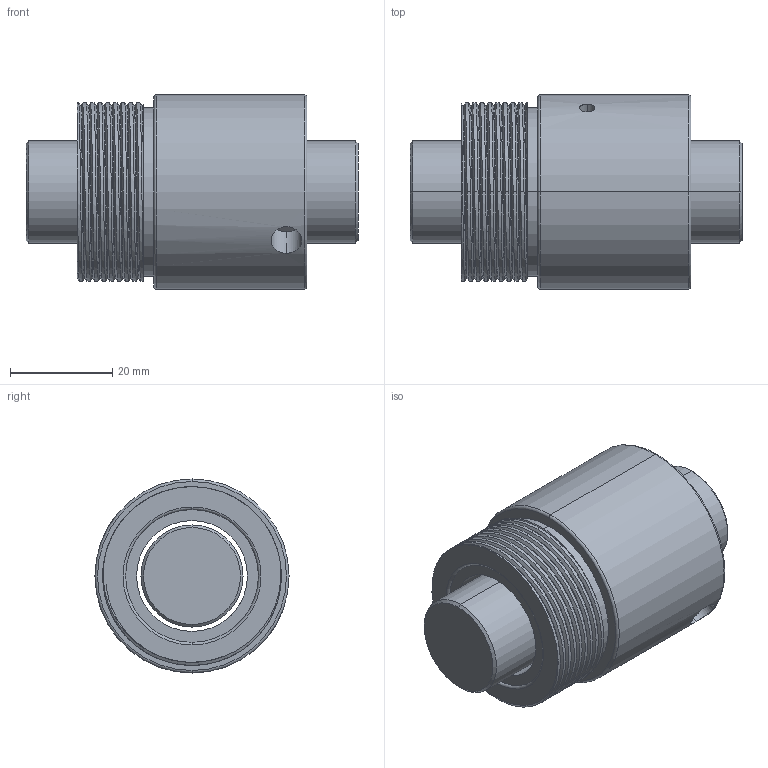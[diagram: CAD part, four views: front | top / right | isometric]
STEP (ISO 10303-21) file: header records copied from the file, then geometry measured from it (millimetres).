
FILE_DESCRIPTION (( 'STEP AP203' ), '1' );
FILE_NAME ('BSHR02005T3-C.STEP', '2020-06-17T06:58:15', ( '' ), ( '' ), 'SwSTEP 2.0', 'SolidWorks 2013', '' );
FILE_SCHEMA (( 'CONFIG_CONTROL_DESIGN' ));
Length unit declared in the file: millimetre
Products named in the file (1): BSHR02005T3-C
Bounding box: 65 x 38 x 38 mm (x, y, z)
Volume: 51258.6 mm3; surface area: 15343.6 mm2
Topology: 2 solids, 2 shells, 56 faces, 134 edges, 85 vertices
Faces by surface type: cylinder 31, torus 8, plane 8, cone 6, bspline 3
Entity records: 3432 total; most frequent: CARTESIAN_POINT 2163, ORIENTED_EDGE 264, DIRECTION 236, EDGE_CURVE 132, AXIS2_PLACEMENT_3D 100, VERTEX_POINT 85, EDGE_LOOP 65, FACE_OUTER_BOUND 56
